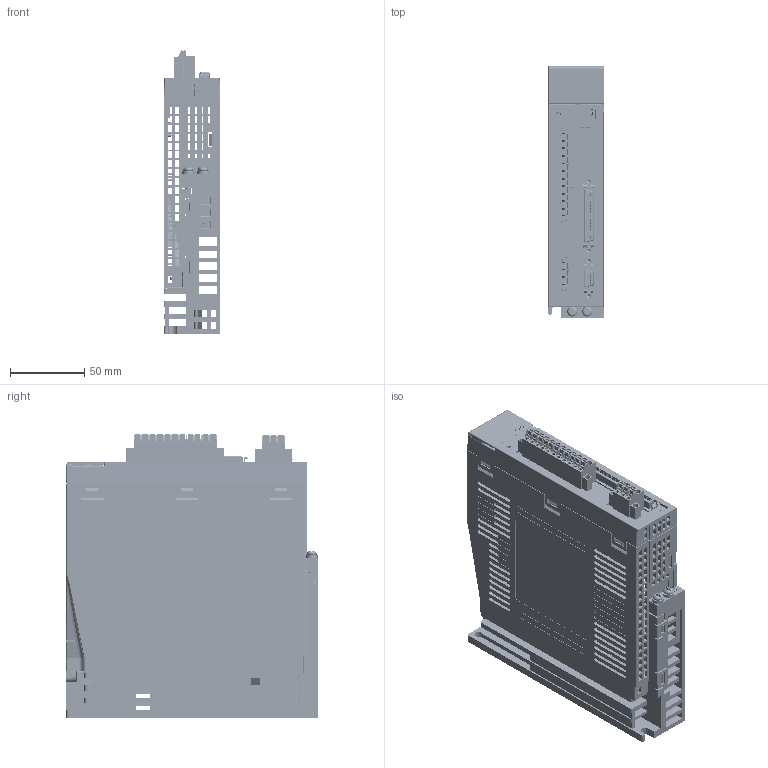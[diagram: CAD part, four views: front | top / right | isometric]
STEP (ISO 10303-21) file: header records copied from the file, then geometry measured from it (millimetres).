
FILE_DESCRIPTION(/* description */ (''),/* implementation_level */ '2;1');
FILE_NAME(/* name */ '\\EMN0D5F01\rp_inventor\RP Mechanical Design\P Series Files\P Series Step from ipt files\PD-04P.stp',/* time_stamp */ '2015-06-05T16:20:51-07:00',/* author */ ('jb17719'),/* organization */ (''),/* preprocessor_version */ 'ST-DEVELOPER v15.2',/* originating_system */ 'Autodesk Inventor 2014',/* authorisation */ '');
FILE_SCHEMA (('AUTOMOTIVE_DESIGN { 1 0 10303 214 3 1 1 }'));
Products named in the file (1): PD-04P.STEP
Bounding box: 38 x 169 x 191.13 mm (x, y, z)
Volume: 340751.4 mm3; surface area: 314620.1 mm2
Topology: 46 solids, 47 shells, 10939 faces, 30598 edges, 20075 vertices
Faces by surface type: plane 8348, cylinder 1635, bspline 731, sphere 91, torus 70, cone 64
Full cylindrical faces by diameter (mm): 0.45 x13, 0.7 x5, 0.8 x2, 1.5 x2, 1.8 x2, 2 x4, 2.013 x4, 2.2 x6, 2.3 x4, 2.5 x10, 2.6 x6, 3.3 x4, 3.5 x7, 3.8 x8, 3.9 x8, 4 x2, 4.75 x1, 5.5 x1, 6 x1, 6.6 x2, 7.8 x2, 8 x2
Entity records: 380471 total; most frequent: CARTESIAN_POINT 101064, ORIENTED_EDGE 60562, DIRECTION 52582, EDGE_CURVE 30317, LINE 24924, VECTOR 24924, VERTEX_POINT 20044, AXIS2_PLACEMENT_3D 13829
